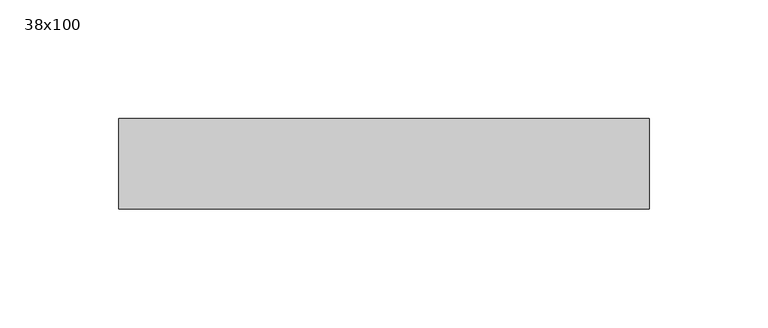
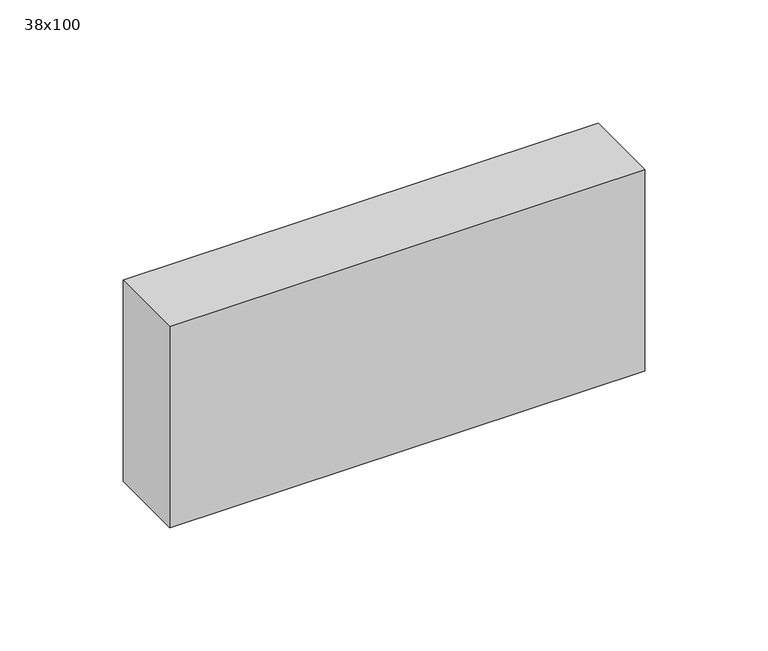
"""IFC4 building model written with IfcOpenShell, lengths in millimetres: beam geometry, Poutre - Bois de construction de dimensions courantes : 38x100."""

from ifc_helpers import new_model, si_unit, frame, origin, place, context, project, spatial, polyline, outline, extrude, source, transform, mapped, element, save


def beam_38x100_4369f0b1(model_context):
    return source(origin(), model_context, "Body", "SweptSolid", [
        extrude(outline(polyline([(106.5, 19.05), (106.5, -19.05), (-116.5, -19.05), (-116.5, 19.05), (106.5, 19.05)])), frame((0.0, 0.0, -50.0), z_axis=(0.0, 0.0, 1.0), x_axis=(1.0, 0.0, 0.0)), (0.0, 0.0, 1.0), 100.0),
    ])


if __name__ == "__main__":
    model = new_model("IFC4")
    model_context = context("Model", 3, world=origin())
    ifc_project = project(units=[si_unit("LENGTHUNIT", "METRE", prefix="MILLI")], contexts=[model_context])
    site = spatial("IfcSite", under=ifc_project)
    building = spatial("IfcBuilding", under=site)
    placement = place(None, origin())
    beam_38x100_shape = beam_38x100_4369f0b1(model_context)
    element("IfcBeam", 1, ObjectType="Poutre - Bois de construction de dimensions courantes : 38x100", at=placement, inside=building, context=model_context, shape_type="MappedRepresentation", body=[
        mapped(beam_38x100_shape, transform((0.0, 0.0, 0.0), x_axis=(1.0, 0.0, 0.0), y_axis=(0.0, 1.0, 0.0), z_axis=(0.0, 0.0, 1.0))),
    ])
    save(model, "model.ifc")
